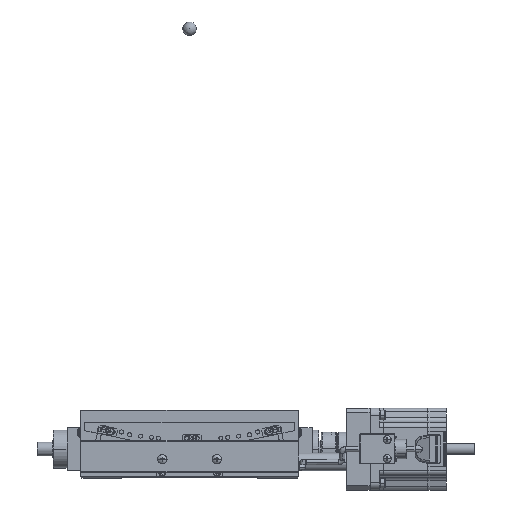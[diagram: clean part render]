
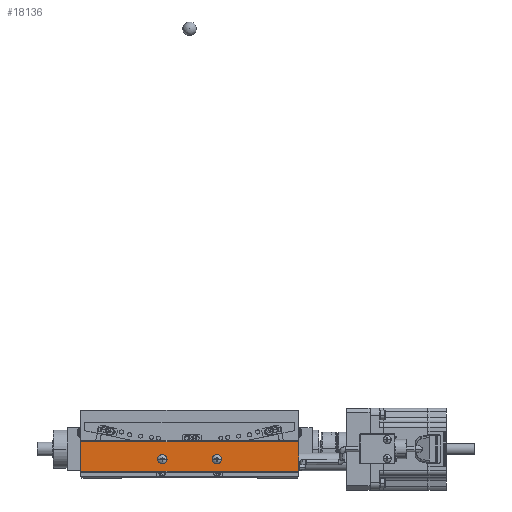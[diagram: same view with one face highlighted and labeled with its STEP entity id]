
A CAD part, front view. The second image highlights one B-rep face of the part: STEP entity #18136.
In plain terms, the highlighted planar face has unit normal (0, -1, 0).
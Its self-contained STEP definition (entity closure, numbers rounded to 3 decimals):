
#218 = CARTESIAN_POINT ( 'NONE',  ( -1240.959, -346.081, -286.708 ) ) ;
#1533 = VERTEX_POINT ( 'NONE', #38109 ) ;
#2135 = VERTEX_POINT ( 'NONE', #218 ) ;
#2534 = CARTESIAN_POINT ( 'NONE',  ( -1080.959, -346.081, -297.708 ) ) ;
#3824 = FACE_OUTER_BOUND ( 'NONE', #40125, .T. ) ;
#4282 = LINE ( 'NONE', #61273, #20073 ) ;
#4871 = ORIENTED_EDGE ( 'NONE', *, *, #46920, .F. ) ;
#6496 = CIRCLE ( 'NONE', #79809, 3.45 ) ;
#7376 = DIRECTION ( 'NONE',  ( -1., 0., 0. ) ) ;
#7682 = CARTESIAN_POINT ( 'NONE',  ( -1160.959, -346.081, -297.708 ) ) ;
#7744 = AXIS2_PLACEMENT_3D ( 'NONE', #7682, #80474, #7376 ) ;
#11034 = VERTEX_POINT ( 'NONE', #20172 ) ;
#11608 = EDGE_CURVE ( 'NONE', #83756, #26574, #4282, .T. ) ;
#12361 = CARTESIAN_POINT ( 'NONE',  ( -1140.959, -346.081, -299.708 ) ) ;
#13900 = DIRECTION ( 'NONE',  ( 0., -1., 0. ) ) ;
#15516 = AXIS2_PLACEMENT_3D ( 'NONE', #66818, #54592, #40274 ) ;
#18136 = ADVANCED_FACE ( 'NONE', ( #21713, #72940, #3824 ), #40232, .T. ) ;
#18782 = ORIENTED_EDGE ( 'NONE', *, *, #32576, .F. ) ;
#18840 = VECTOR ( 'NONE', #37133, 1000. ) ;
#19518 = CARTESIAN_POINT ( 'NONE',  ( -1180.959, -346.081, -299.708 ) ) ;
#20073 = VECTOR ( 'NONE', #21229, 1000. ) ;
#20172 = CARTESIAN_POINT ( 'NONE',  ( -1080.959, -346.081, -286.708 ) ) ;
#20682 = DIRECTION ( 'NONE',  ( -1., 0., 0. ) ) ;
#21196 = ORIENTED_EDGE ( 'NONE', *, *, #36231, .T. ) ;
#21229 = DIRECTION ( 'NONE',  ( 1., 0., 0. ) ) ;
#21713 = FACE_BOUND ( 'NONE', #45257, .T. ) ;
#21759 = EDGE_CURVE ( 'NONE', #11034, #26574, #24147, .T. ) ;
#23211 = CIRCLE ( 'NONE', #81783, 3.45 ) ;
#24147 = LINE ( 'NONE', #2534, #18840 ) ;
#24416 = DIRECTION ( 'NONE',  ( 0., 0., 1. ) ) ;
#26574 = VERTEX_POINT ( 'NONE', #50249 ) ;
#32225 = CARTESIAN_POINT ( 'NONE',  ( -1160.959, -346.081, -286.708 ) ) ;
#32327 = DIRECTION ( 'NONE',  ( 0., -1., 0. ) ) ;
#32576 = EDGE_CURVE ( 'NONE', #45474, #1533, #32986, .T. ) ;
#32986 = CIRCLE ( 'NONE', #52005, 3.45 ) ;
#36231 = EDGE_CURVE ( 'NONE', #11034, #2135, #84272, .T. ) ;
#37133 = DIRECTION ( 'NONE',  ( 0., 0., -1. ) ) ;
#38109 = CARTESIAN_POINT ( 'NONE',  ( -1144.409, -346.081, -299.708 ) ) ;
#38142 = VERTEX_POINT ( 'NONE', #40579 ) ;
#40125 = EDGE_LOOP ( 'NONE', ( #60897, #64576, #41292, #21196 ) ) ;
#40232 = PLANE ( 'NONE',  #7744 ) ;
#40274 = DIRECTION ( 'NONE',  ( -1., 0., 0. ) ) ;
#40579 = CARTESIAN_POINT ( 'NONE',  ( -1177.509, -346.081, -299.708 ) ) ;
#41057 = EDGE_CURVE ( 'NONE', #1533, #45474, #84657, .T. ) ;
#41292 = ORIENTED_EDGE ( 'NONE', *, *, #21759, .F. ) ;
#41452 = VECTOR ( 'NONE', #24416, 1000. ) ;
#43694 = CARTESIAN_POINT ( 'NONE',  ( -1184.409, -346.081, -299.708 ) ) ;
#44466 = EDGE_LOOP ( 'NONE', ( #80433, #18782 ) ) ;
#44531 = DIRECTION ( 'NONE',  ( -1., 0., 0. ) ) ;
#45257 = EDGE_LOOP ( 'NONE', ( #54702, #4871 ) ) ;
#45474 = VERTEX_POINT ( 'NONE', #68298 ) ;
#46920 = EDGE_CURVE ( 'NONE', #38142, #72641, #6496, .T. ) ;
#50249 = CARTESIAN_POINT ( 'NONE',  ( -1080.959, -346.081, -308.708 ) ) ;
#52005 = AXIS2_PLACEMENT_3D ( 'NONE', #12361, #32327, #79019 ) ;
#54592 = DIRECTION ( 'NONE',  ( 0., -1., 0. ) ) ;
#54702 = ORIENTED_EDGE ( 'NONE', *, *, #78572, .F. ) ;
#55094 = VECTOR ( 'NONE', #44531, 1000. ) ;
#57756 = CARTESIAN_POINT ( 'NONE',  ( -1240.959, -346.081, -297.708 ) ) ;
#60897 = ORIENTED_EDGE ( 'NONE', *, *, #66507, .F. ) ;
#61273 = CARTESIAN_POINT ( 'NONE',  ( -1160.959, -346.081, -308.708 ) ) ;
#61735 = DIRECTION ( 'NONE',  ( -1., 0., 0. ) ) ;
#64576 = ORIENTED_EDGE ( 'NONE', *, *, #11608, .T. ) ;
#66507 = EDGE_CURVE ( 'NONE', #83756, #2135, #73725, .T. ) ;
#66818 = CARTESIAN_POINT ( 'NONE',  ( -1140.959, -346.081, -299.708 ) ) ;
#68298 = CARTESIAN_POINT ( 'NONE',  ( -1137.509, -346.081, -299.708 ) ) ;
#72641 = VERTEX_POINT ( 'NONE', #43694 ) ;
#72940 = FACE_BOUND ( 'NONE', #44466, .T. ) ;
#73725 = LINE ( 'NONE', #57756, #41452 ) ;
#75418 = CARTESIAN_POINT ( 'NONE',  ( -1180.959, -346.081, -299.708 ) ) ;
#75714 = DIRECTION ( 'NONE',  ( 0., -1., 0. ) ) ;
#78572 = EDGE_CURVE ( 'NONE', #72641, #38142, #23211, .T. ) ;
#79019 = DIRECTION ( 'NONE',  ( -1., 0., 0. ) ) ;
#79809 = AXIS2_PLACEMENT_3D ( 'NONE', #75418, #75714, #61735 ) ;
#80433 = ORIENTED_EDGE ( 'NONE', *, *, #41057, .F. ) ;
#80474 = DIRECTION ( 'NONE',  ( 0., -1., 0. ) ) ;
#81783 = AXIS2_PLACEMENT_3D ( 'NONE', #19518, #13900, #20682 ) ;
#83267 = CARTESIAN_POINT ( 'NONE',  ( -1240.959, -346.081, -308.708 ) ) ;
#83756 = VERTEX_POINT ( 'NONE', #83267 ) ;
#84272 = LINE ( 'NONE', #32225, #55094 ) ;
#84657 = CIRCLE ( 'NONE', #15516, 3.45 ) ;
